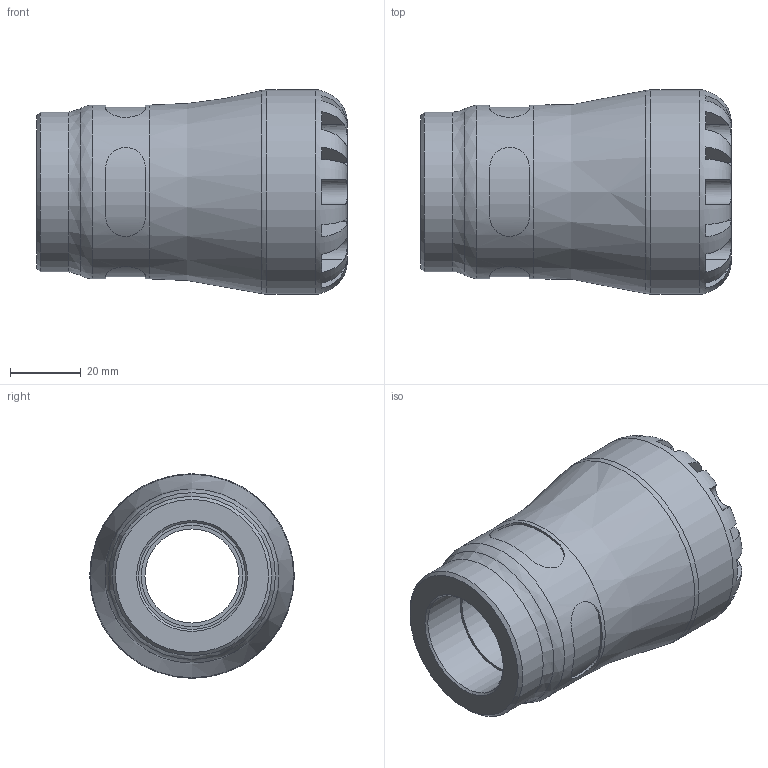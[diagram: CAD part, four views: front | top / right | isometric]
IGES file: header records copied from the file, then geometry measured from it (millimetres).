
Global section: file name: 1073G0032010.ipt; native system: Autodesk Inventor 2015; preprocessor: unknown; author: KIM; date: 20170122.113814; units: millimetre
Bounding box: 88 x 58 x 58 mm (x, y, z)
Volume: 115891.6 mm3; surface area: 27016.5 mm2
Topology: 1 solids, 1 shells, 104 faces, 270 edges, 174 vertices
Faces by surface type: plane 61, revolution 27, cylinder 15, cone 1
Full cylindrical faces by diameter (mm): 45.24 x1, 49.3 x1, 58 x1
